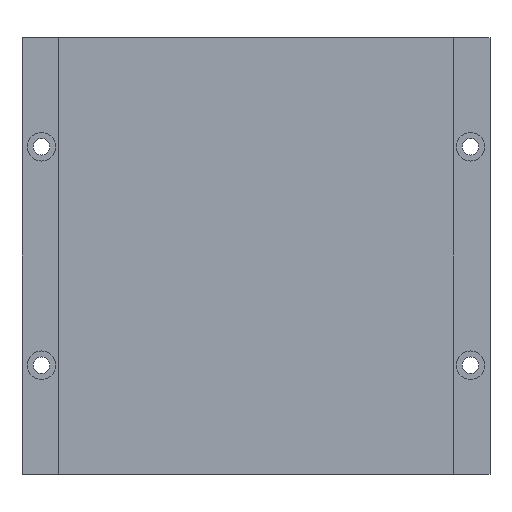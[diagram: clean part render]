
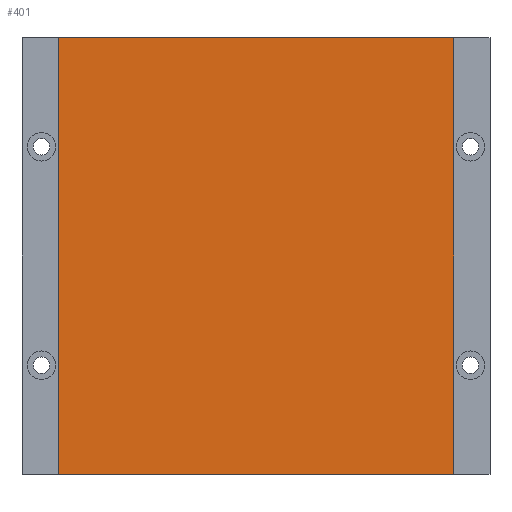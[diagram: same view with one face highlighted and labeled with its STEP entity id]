
A CAD part, left-side view. The second image highlights one B-rep face of the part: STEP entity #401.
In plain terms, the highlighted planar face has unit normal (-1, 0, 0).
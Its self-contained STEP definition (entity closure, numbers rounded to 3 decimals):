
#2 = ORIENTED_EDGE ( 'NONE', *, *, #702, .F. ) ;
#36 = CARTESIAN_POINT ( 'NONE',  ( -7.8, -76.15, 0. ) ) ;
#37 = ORIENTED_EDGE ( 'NONE', *, *, #634, .F. ) ;
#54 = EDGE_LOOP ( 'NONE', ( #2, #37, #397, #466 ) ) ;
#71 = LINE ( 'NONE', #207, #117 ) ;
#80 = VERTEX_POINT ( 'NONE', #911 ) ;
#116 = VECTOR ( 'NONE', #622, 1000. ) ;
#117 = VECTOR ( 'NONE', #360, 1000. ) ;
#137 = VECTOR ( 'NONE', #359, 1000. ) ;
#144 = CARTESIAN_POINT ( 'NONE',  ( -7.8, 76.15, 168. ) ) ;
#207 = CARTESIAN_POINT ( 'NONE',  ( -7.8, 0., 168. ) ) ;
#230 = LINE ( 'NONE', #728, #817 ) ;
#235 = VERTEX_POINT ( 'NONE', #684 ) ;
#343 = DIRECTION ( 'NONE',  ( -1., 0., 0. ) ) ;
#359 = DIRECTION ( 'NONE',  ( 0., 0., -1. ) ) ;
#360 = DIRECTION ( 'NONE',  ( 0., 1., 0. ) ) ;
#365 = FACE_OUTER_BOUND ( 'NONE', #54, .T. ) ;
#375 = VERTEX_POINT ( 'NONE', #841 ) ;
#397 = ORIENTED_EDGE ( 'NONE', *, *, #482, .T. ) ;
#401 = ADVANCED_FACE ( 'NONE', ( #365 ), #943, .T. ) ;
#432 = LINE ( 'NONE', #144, #137 ) ;
#466 = ORIENTED_EDGE ( 'NONE', *, *, #706, .T. ) ;
#482 = EDGE_CURVE ( 'NONE', #80, #375, #71, .T. ) ;
#621 = AXIS2_PLACEMENT_3D ( 'NONE', #696, #343, #852 ) ;
#622 = DIRECTION ( 'NONE',  ( 0., 0., -1. ) ) ;
#634 = EDGE_CURVE ( 'NONE', #80, #945, #938, .T. ) ;
#684 = CARTESIAN_POINT ( 'NONE',  ( -7.8, 76.15, 0. ) ) ;
#696 = CARTESIAN_POINT ( 'NONE',  ( -7.8, 0., 168. ) ) ;
#702 = EDGE_CURVE ( 'NONE', #945, #235, #230, .T. ) ;
#706 = EDGE_CURVE ( 'NONE', #375, #235, #432, .T. ) ;
#728 = CARTESIAN_POINT ( 'NONE',  ( -7.8, 0., 0. ) ) ;
#775 = CARTESIAN_POINT ( 'NONE',  ( -7.8, -76.15, 168. ) ) ;
#817 = VECTOR ( 'NONE', #947, 1000. ) ;
#841 = CARTESIAN_POINT ( 'NONE',  ( -7.8, 76.15, 168. ) ) ;
#852 = DIRECTION ( 'NONE',  ( 0., 0., 1. ) ) ;
#911 = CARTESIAN_POINT ( 'NONE',  ( -7.8, -76.15, 168. ) ) ;
#938 = LINE ( 'NONE', #775, #116 ) ;
#943 = PLANE ( 'NONE',  #621 ) ;
#945 = VERTEX_POINT ( 'NONE', #36 ) ;
#947 = DIRECTION ( 'NONE',  ( 0., 1., 0. ) ) ;
